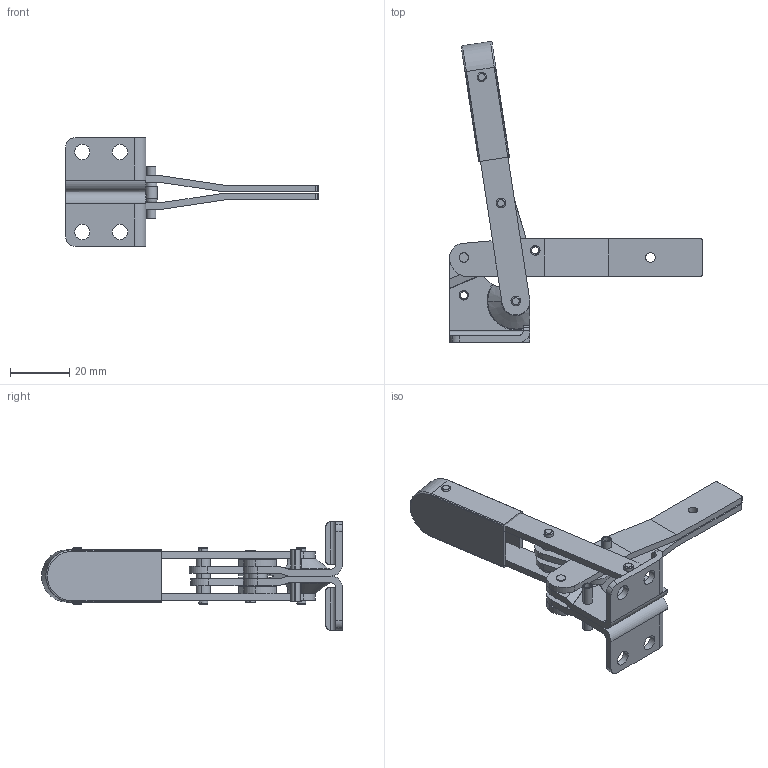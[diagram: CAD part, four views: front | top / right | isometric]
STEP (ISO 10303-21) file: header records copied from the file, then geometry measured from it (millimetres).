
FILE_DESCRIPTION((''),'2;1');
FILE_NAME('C:\lapeer-mfg\100\vc-100\step\vc-100.stp','2005-06-07T18:58:57',('rtaylor'),(''),'Autodesk Inventor 9','Autodesk Inventor 9','');
FILE_SCHEMA(('AUTOMOTIVE_DESIGN { 1 0 10303 214 1 1 1 1 }'));
Length unit declared in the file: inch
Products named in the file (12): vc-100; 100015; 120006-R; 120006-L; 110001-L-VC; 110001-R-VC; 130009; 150066; 150067; 150011-1; 150011; 102009
Assembly tree (16 placements, depth 2):
  vc-100
    100015  x2
    120006-R
    120006-L
    110001-L-VC
    110001-R-VC
    130009  x2
    150066  x2
    150067  x3
    150011-1
    150011
    102009
Bounding box: 85.02 x 101.26 x 36.53 mm (x, y, z)
Volume: 17233.1 mm3; surface area: 21322.2 mm2
Topology: 16 solids, 16 shells, 335 faces, 844 edges, 556 vertices
Faces by surface type: cylinder 137, plane 87, bspline 83, torus 18, cone 10
Entity records: 9786 total; most frequent: CARTESIAN_POINT 2726, DIRECTION 1440, ORIENTED_EDGE 1416, EDGE_CURVE 708, AXIS2_PLACEMENT_3D 558, VERTEX_POINT 468, VECTOR 324, LINE 324
